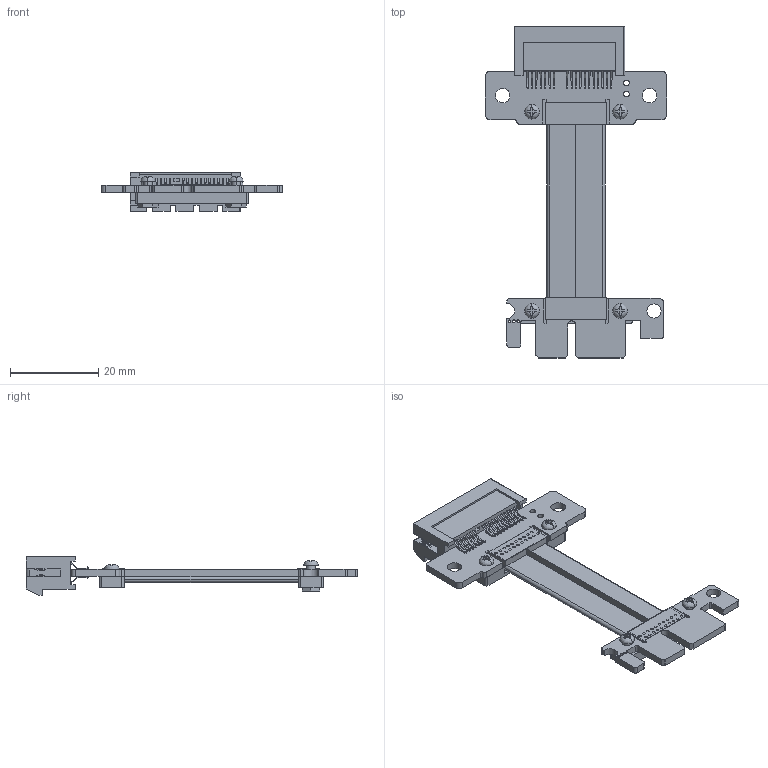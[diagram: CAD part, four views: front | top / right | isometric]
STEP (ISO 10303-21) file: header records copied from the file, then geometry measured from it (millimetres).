
FILE_DESCRIPTION(('Open CASCADE Model'),'2;1');
FILE_NAME('Open CASCADE Shape Model','2020-02-03T14:59:02',('Author'),( 'Open CASCADE'),'Open CASCADE STEP processor 6.8','Open CASCADE 6.8' ,'Unknown');
FILE_SCHEMA(('AUTOMOTIVE_DESIGN { 1 0 10303 214 1 1 1 1 }'));
Length unit declared in the file: millimetre
Products named in the file (11): PCB; Board; Open CASCADE STEP translator 6.8 3.1.1; Open CASCADE STEP translator 6.8 3.1.2; Free-Models; AAA-PCI--1×_3D_RGB4404530; Hexagon_nut_ISO_4032_(DIN_934)_-_M2_RGB9411503; RP11S-PAD; G0033_RGB9411503; Tape14x5_RGB0; cable20-43
Assembly tree (18 placements, depth 3):
  PCB
    Board
      Open CASCADE STEP translator 6.8 3.1.1
      Open CASCADE STEP translator 6.8 3.1.2
    Free-Models
      AAA-PCI--1×_3D_RGB4404530
      Hexagon_nut_ISO_4032_(DIN_934)_-_M2_RGB9411503  x4
      RP11S-PAD  x2
      G0033_RGB9411503  x4
      Tape14x5_RGB0  x2
      cable20-43
Bounding box: 41.08 x 75.25 x 8.78 mm (x, y, z)
Volume: 3944 mm3; surface area: 8417.9 mm2
Topology: 56 solids, 56 shells, 2408 faces, 5909 edges, 3663 vertices
Faces by surface type: plane 1225, cylinder 831, bspline 216, torus 80, cone 48, revolution 8
Full cylindrical faces by diameter (mm): 0.6 x43, 1.3 x2, 2.2 x8, 3.2 x1, 3.3 x2, 4.8 x4
Entity records: 84245 total; most frequent: CARTESIAN_POINT 15789, ORIENTED_EDGE 11034, DIRECTION 10182, EDGE_CURVE 5517, LINE 3648, VECTOR 3648, VERTEX_POINT 3413, AXIS2_PLACEMENT_3D 3266
